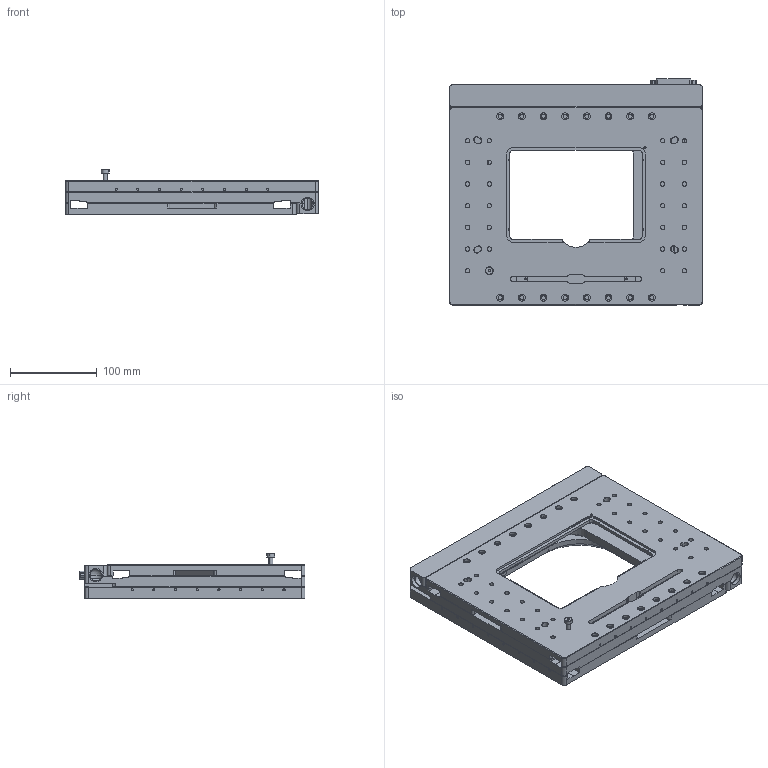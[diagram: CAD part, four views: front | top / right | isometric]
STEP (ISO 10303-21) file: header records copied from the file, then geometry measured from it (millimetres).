
FILE_DESCRIPTION (( 'STEP AP214' ), '1' );
FILE_NAME ('S551-20XXX (RM-1250) (CATALOG MODEL).STEP', '2025-09-23T18:49:26', ( '' ), ( '' ), 'SwSTEP 2.0', 'SolidWorks 2025', '' );
FILE_SCHEMA (( 'AUTOMOTIVE_DESIGN' ));
Length unit declared in the file: inch
Products named in the file (1): S551-20XXX (RM-1250) (CATALOG MODEL)
Bounding box: 292.1 x 260.66 x 51.7 mm (x, y, z)
Volume: 1350258.1 mm3; surface area: 448374.6 mm2
Topology: 12 solids, 12 shells, 2162 faces, 5637 edges, 3500 vertices
Faces by surface type: cylinder 1069, plane 740, cone 292, torus 30, bspline 28, sphere 3
Entity records: 76279 total; most frequent: CARTESIAN_POINT 17124, DIRECTION 11799, ORIENTED_EDGE 10926, EDGE_CURVE 5463, AXIS2_PLACEMENT_3D 4379, VERTEX_POINT 3499, VECTOR 3041, LINE 3041
